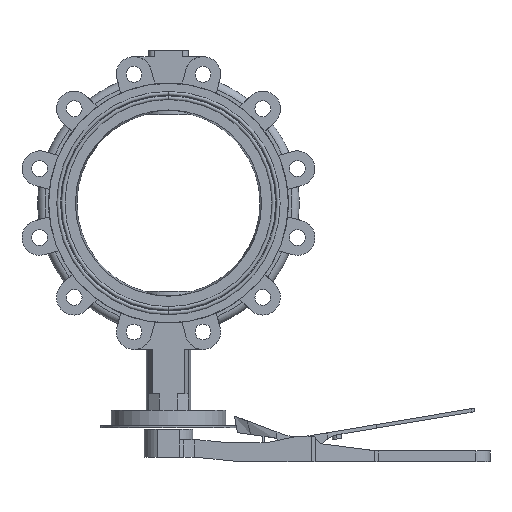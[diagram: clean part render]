
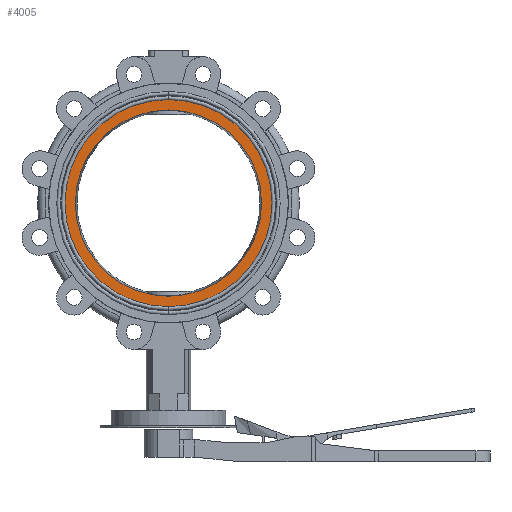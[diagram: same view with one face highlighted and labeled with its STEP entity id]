
A CAD part, front view. The second image highlights one B-rep face of the part: STEP entity #4005.
In plain terms, the highlighted planar face has unit normal (0, -1, 0).
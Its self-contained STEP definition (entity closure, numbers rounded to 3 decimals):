
#119 = PLANE ( 'NONE',  #2534 ) ;
#216 = DIRECTION ( 'NONE',  ( 0., 0., 1. ) ) ;
#502 = CARTESIAN_POINT ( 'NONE',  ( 0., -31., -114.5 ) ) ;
#507 = CARTESIAN_POINT ( 'NONE',  ( 0., -31., 0. ) ) ;
#553 = DIRECTION ( 'NONE',  ( 0., 0., 1. ) ) ;
#840 = ORIENTED_EDGE ( 'NONE', *, *, #7793, .F. ) ;
#872 = VERTEX_POINT ( 'NONE', #11574 ) ;
#1642 = AXIS2_PLACEMENT_3D ( 'NONE', #4945, #10418, #553 ) ;
#1737 = CIRCLE ( 'NONE', #3764, 114.5 ) ;
#2534 = AXIS2_PLACEMENT_3D ( 'NONE', #9919, #6723, #2542 ) ;
#2542 = DIRECTION ( 'NONE',  ( 0., 0., 1. ) ) ;
#2860 = EDGE_CURVE ( 'NONE', #3569, #872, #3006, .T. ) ;
#3006 = CIRCLE ( 'NONE', #1642, 102.95 ) ;
#3539 = CARTESIAN_POINT ( 'NONE',  ( 0., -31., 0. ) ) ;
#3569 = VERTEX_POINT ( 'NONE', #9743 ) ;
#3701 = DIRECTION ( 'NONE',  ( 0., 0., 1. ) ) ;
#3764 = AXIS2_PLACEMENT_3D ( 'NONE', #12933, #9655, #216 ) ;
#3822 = VERTEX_POINT ( 'NONE', #502 ) ;
#4005 = ADVANCED_FACE ( 'NONE', ( #8995, #4376 ), #119, .F. ) ;
#4376 = FACE_BOUND ( 'NONE', #10846, .T. ) ;
#4945 = CARTESIAN_POINT ( 'NONE',  ( 0., -31., 0. ) ) ;
#5894 = DIRECTION ( 'NONE',  ( 0., 1., 0. ) ) ;
#6016 = EDGE_LOOP ( 'NONE', ( #6965, #840 ) ) ;
#6723 = DIRECTION ( 'NONE',  ( 0., 1., 0. ) ) ;
#6965 = ORIENTED_EDGE ( 'NONE', *, *, #13109, .F. ) ;
#7793 = EDGE_CURVE ( 'NONE', #3822, #12801, #13757, .T. ) ;
#8153 = DIRECTION ( 'NONE',  ( 0., 1., 0. ) ) ;
#8392 = CIRCLE ( 'NONE', #10895, 102.95 ) ;
#8995 = FACE_OUTER_BOUND ( 'NONE', #6016, .T. ) ;
#9655 = DIRECTION ( 'NONE',  ( 0., 1., 0. ) ) ;
#9743 = CARTESIAN_POINT ( 'NONE',  ( 0., -31., 102.95 ) ) ;
#9919 = CARTESIAN_POINT ( 'NONE',  ( 102.95, -31., 0. ) ) ;
#10034 = EDGE_CURVE ( 'NONE', #872, #3569, #8392, .T. ) ;
#10158 = ORIENTED_EDGE ( 'NONE', *, *, #10034, .T. ) ;
#10418 = DIRECTION ( 'NONE',  ( 0., 1., 0. ) ) ;
#10574 = ORIENTED_EDGE ( 'NONE', *, *, #2860, .T. ) ;
#10846 = EDGE_LOOP ( 'NONE', ( #10158, #10574 ) ) ;
#10895 = AXIS2_PLACEMENT_3D ( 'NONE', #507, #5894, #3701 ) ;
#11499 = AXIS2_PLACEMENT_3D ( 'NONE', #3539, #8153, #13571 ) ;
#11574 = CARTESIAN_POINT ( 'NONE',  ( 0., -31., -102.95 ) ) ;
#12801 = VERTEX_POINT ( 'NONE', #13597 ) ;
#12933 = CARTESIAN_POINT ( 'NONE',  ( 0., -31., 0. ) ) ;
#13109 = EDGE_CURVE ( 'NONE', #12801, #3822, #1737, .T. ) ;
#13571 = DIRECTION ( 'NONE',  ( 0., 0., 1. ) ) ;
#13597 = CARTESIAN_POINT ( 'NONE',  ( 0., -31., 114.5 ) ) ;
#13757 = CIRCLE ( 'NONE', #11499, 114.5 ) ;
